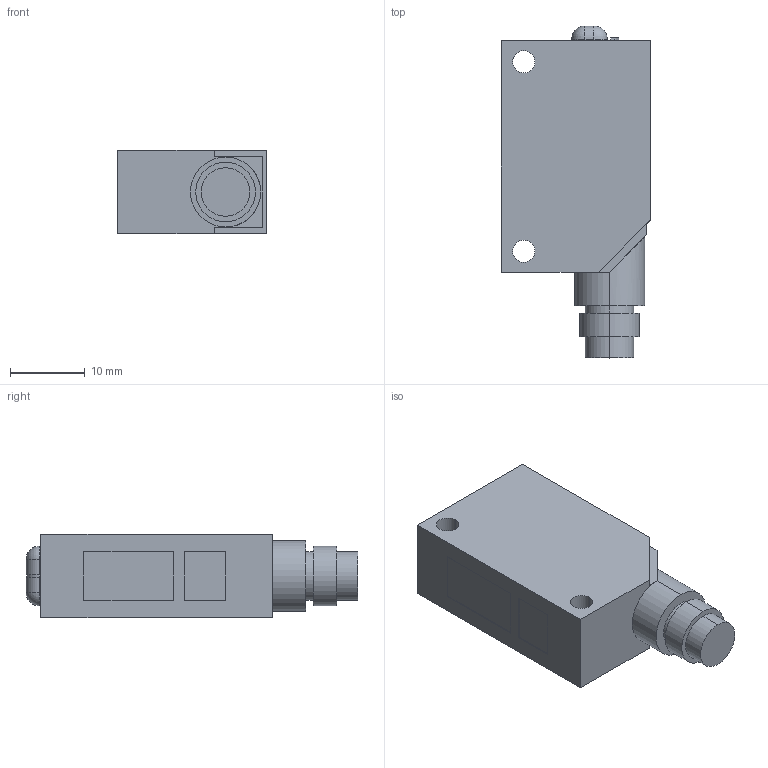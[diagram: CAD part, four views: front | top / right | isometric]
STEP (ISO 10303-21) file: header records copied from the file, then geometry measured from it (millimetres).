
FILE_DESCRIPTION (( 'STEP AP203' ), '1' );
FILE_NAME ('cx-441-z.STEP', '2008-08-22T08:32:35', ( ' ' ), ( ' ' ), 'SwSTEP 2.0', 'SolidWorks 2007', '' );
FILE_SCHEMA (( 'CONFIG_CONTROL_DESIGN' ));
Length unit declared in the file: millimetre
Products named in the file (1): cx-441-z
Bounding box: 20 x 44.5 x 11.2 mm (x, y, z)
Volume: 7320.3 mm3; surface area: 2939.9 mm2
Topology: 3 solids, 3 shells, 120 faces, 304 edges, 194 vertices
Faces by surface type: plane 75, cylinder 41, sphere 4
Entity records: 3656 total; most frequent: DIRECTION 636, CARTESIAN_POINT 618, ORIENTED_EDGE 600, EDGE_CURVE 300, AXIS2_PLACEMENT_3D 216, VECTOR 204, LINE 204, VERTEX_POINT 194
